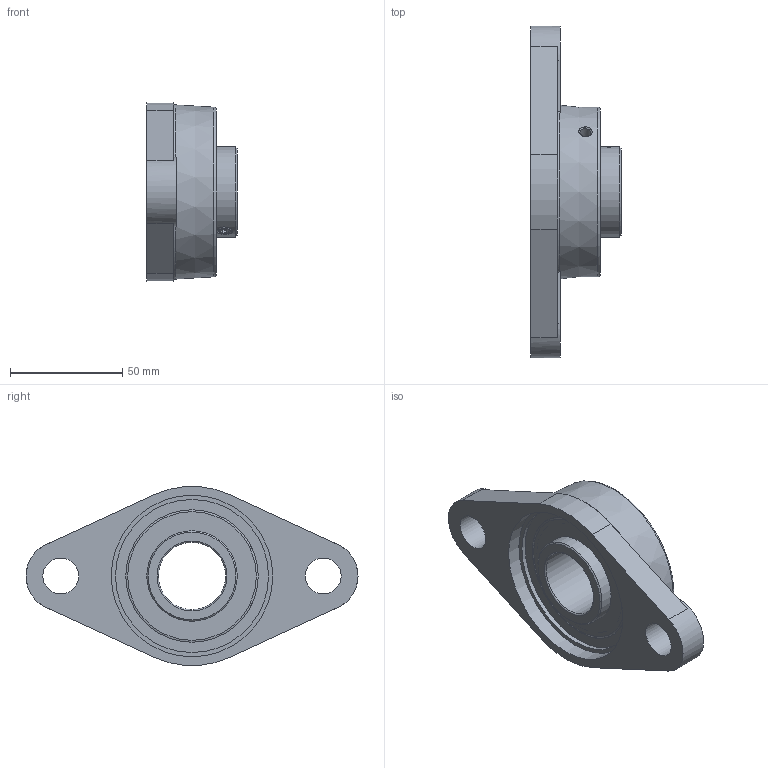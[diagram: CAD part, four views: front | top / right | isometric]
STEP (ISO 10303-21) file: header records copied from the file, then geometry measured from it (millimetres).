
FILE_DESCRIPTION (( 'STEP AP203' ), '1' );
FILE_NAME ('UCFL-206.STEP', '2019-03-08T12:13:06', ( '' ), ( '' ), 'SwSTEP 2.0', 'SolidWorks 2017', '' );
FILE_SCHEMA (( 'CONFIG_CONTROL_DESIGN' ));
Length unit declared in the file: millimetre
Products named in the file (1): UCFL-206
Bounding box: 40.2 x 148 x 79.7 mm (x, y, z)
Volume: 118158.9 mm3; surface area: 39810.1 mm2
Topology: 1 solids, 3 shells, 93 faces, 210 edges, 141 vertices
Faces by surface type: plane 43, cylinder 24, cone 10, torus 9, sphere 7
Full cylindrical faces by diameter (mm): 0.95 x4, 4.918 x1, 6 x3, 16 x2, 30 x1, 40.3 x4, 53.735 x2, 68.2 x1, 70 x1, 72 x1
Entity records: 2851 total; most frequent: CARTESIAN_POINT 928, DIRECTION 384, ORIENTED_EDGE 304, AXIS2_PLACEMENT_3D 160, EDGE_LOOP 158, EDGE_CURVE 152, VERTEX_POINT 120, FACE_OUTER_BOUND 120
